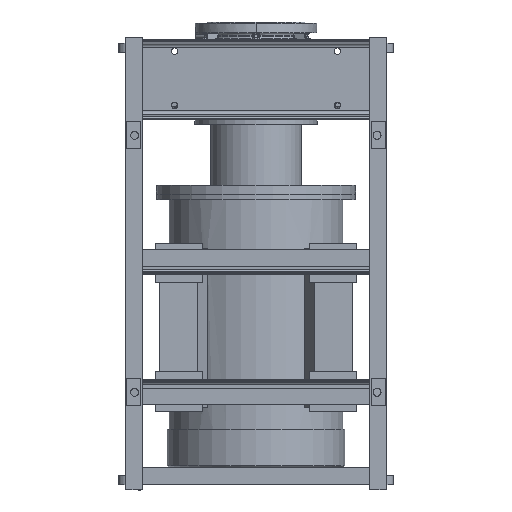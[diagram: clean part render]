
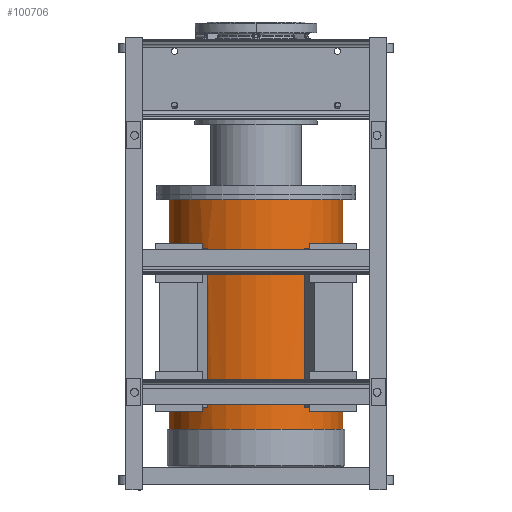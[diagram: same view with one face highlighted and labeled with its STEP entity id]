
A CAD part, front view. The second image highlights one B-rep face of the part: STEP entity #100706.
In plain terms, the highlighted cylindrical face has radius 240 mm (diameter 480 mm), a partial arc.
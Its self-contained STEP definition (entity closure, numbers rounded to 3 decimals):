
#896 = LINE ( 'NONE', #14713, #17232 ) ;
#1113 = DIRECTION ( 'NONE',  ( -1., 0., 0. ) ) ;
#3086 = AXIS2_PLACEMENT_3D ( 'NONE', #14445, #83686, #91986 ) ;
#4735 = CARTESIAN_POINT ( 'NONE',  ( -134.196, -198.976, -904.8 ) ) ;
#6490 = EDGE_CURVE ( 'NONE', #47622, #75189, #92367, .T. ) ;
#8081 = CIRCLE ( 'NONE', #53170, 240. ) ;
#9694 = ORIENTED_EDGE ( 'NONE', *, *, #82914, .T. ) ;
#10451 = VERTEX_POINT ( 'NONE', #101462 ) ;
#10553 = CIRCLE ( 'NONE', #104604, 240. ) ;
#10653 = DIRECTION ( 'NONE',  ( 0., 0., -1. ) ) ;
#14107 = CIRCLE ( 'NONE', #36005, 240. ) ;
#14445 = CARTESIAN_POINT ( 'NONE',  ( 0., 0., -464.8 ) ) ;
#14713 = CARTESIAN_POINT ( 'NONE',  ( -134.196, -198.976, -1075.8 ) ) ;
#15636 = CYLINDRICAL_SURFACE ( 'NONE', #43424, 240. ) ;
#16563 = VECTOR ( 'NONE', #92406, 1000. ) ;
#17232 = VECTOR ( 'NONE', #31044, 1000. ) ;
#18089 = CARTESIAN_POINT ( 'NONE',  ( 134.196, -198.976, -904.8 ) ) ;
#18319 = CARTESIAN_POINT ( 'NONE',  ( -240., 0., -964.8 ) ) ;
#20229 = CARTESIAN_POINT ( 'NONE',  ( -148.813, -188.294, -1075.8 ) ) ;
#21688 = DIRECTION ( 'NONE',  ( 0., 0., -1. ) ) ;
#23590 = CARTESIAN_POINT ( 'NONE',  ( 240., 0., -1075.8 ) ) ;
#25169 = AXIS2_PLACEMENT_3D ( 'NONE', #65750, #82470, #108518 ) ;
#26543 = EDGE_LOOP ( 'NONE', ( #89704, #46575, #44306, #77070 ) ) ;
#26828 = VECTOR ( 'NONE', #65052, 1000. ) ;
#28038 = CARTESIAN_POINT ( 'NONE',  ( 0., 0., -904.8 ) ) ;
#28799 = CARTESIAN_POINT ( 'NONE',  ( -148.813, -188.294, -464.8 ) ) ;
#29333 = VECTOR ( 'NONE', #48879, 1000. ) ;
#31033 = CARTESIAN_POINT ( 'NONE',  ( 134.196, -198.976, -1075.8 ) ) ;
#31044 = DIRECTION ( 'NONE',  ( 0., 0., 1. ) ) ;
#31222 = CARTESIAN_POINT ( 'NONE',  ( 0., 0., -464.8 ) ) ;
#33190 = CARTESIAN_POINT ( 'NONE',  ( -240., 0., -330.8 ) ) ;
#34701 = ORIENTED_EDGE ( 'NONE', *, *, #53910, .F. ) ;
#36005 = AXIS2_PLACEMENT_3D ( 'NONE', #28038, #80611, #88914 ) ;
#38237 = LINE ( 'NONE', #23590, #16563 ) ;
#40162 = DIRECTION ( 'NONE',  ( -1., 0., 0. ) ) ;
#41072 = ORIENTED_EDGE ( 'NONE', *, *, #58306, .F. ) ;
#43424 = AXIS2_PLACEMENT_3D ( 'NONE', #71892, #10653, #105532 ) ;
#43435 = EDGE_CURVE ( 'NONE', #69789, #67130, #10553, .T. ) ;
#43832 = ORIENTED_EDGE ( 'NONE', *, *, #60191, .T. ) ;
#44306 = ORIENTED_EDGE ( 'NONE', *, *, #45249, .T. ) ;
#45249 = EDGE_CURVE ( 'NONE', #64650, #67130, #64486, .T. ) ;
#45282 = EDGE_LOOP ( 'NONE', ( #34701, #9694, #96201, #41072 ) ) ;
#46441 = VERTEX_POINT ( 'NONE', #83223 ) ;
#46575 = ORIENTED_EDGE ( 'NONE', *, *, #52337, .T. ) ;
#47622 = VERTEX_POINT ( 'NONE', #61718 ) ;
#47751 = DIRECTION ( 'NONE',  ( 0., 0., -1. ) ) ;
#48879 = DIRECTION ( 'NONE',  ( 0., 0., -1. ) ) ;
#50819 = FACE_BOUND ( 'NONE', #104191, .T. ) ;
#52337 = EDGE_CURVE ( 'NONE', #94406, #64650, #83586, .T. ) ;
#53170 = AXIS2_PLACEMENT_3D ( 'NONE', #70625, #87657, #1113 ) ;
#53910 = EDGE_CURVE ( 'NONE', #66025, #10451, #896, .T. ) ;
#54353 = CARTESIAN_POINT ( 'NONE',  ( 148.813, -188.294, -904.8 ) ) ;
#55383 = DIRECTION ( 'NONE',  ( 0., 0., -1. ) ) ;
#56551 = DIRECTION ( 'NONE',  ( 0., 0., -1. ) ) ;
#56933 = DIRECTION ( 'NONE',  ( 1., 0., 0. ) ) ;
#57495 = ORIENTED_EDGE ( 'NONE', *, *, #108025, .T. ) ;
#58306 = EDGE_CURVE ( 'NONE', #10451, #82917, #65680, .T. ) ;
#59749 = VECTOR ( 'NONE', #55383, 1000. ) ;
#60191 = EDGE_CURVE ( 'NONE', #72988, #47622, #98029, .T. ) ;
#61622 = ORIENTED_EDGE ( 'NONE', *, *, #94303, .F. ) ;
#61718 = CARTESIAN_POINT ( 'NONE',  ( 148.813, -188.294, -464.8 ) ) ;
#64486 = LINE ( 'NONE', #100648, #29333 ) ;
#64650 = VERTEX_POINT ( 'NONE', #33190 ) ;
#65052 = DIRECTION ( 'NONE',  ( 0., 0., 1. ) ) ;
#65253 = VECTOR ( 'NONE', #21688, 1000. ) ;
#65680 = CIRCLE ( 'NONE', #103167, 240. ) ;
#65750 = CARTESIAN_POINT ( 'NONE',  ( 0., 0., -330.8 ) ) ;
#66025 = VERTEX_POINT ( 'NONE', #4735 ) ;
#67130 = VERTEX_POINT ( 'NONE', #18319 ) ;
#69775 = FACE_BOUND ( 'NONE', #45282, .T. ) ;
#69789 = VERTEX_POINT ( 'NONE', #108366 ) ;
#70625 = CARTESIAN_POINT ( 'NONE',  ( 0., 0., -904.8 ) ) ;
#71290 = EDGE_CURVE ( 'NONE', #82917, #46441, #108512, .T. ) ;
#71892 = CARTESIAN_POINT ( 'NONE',  ( 0., 0., -1075.8 ) ) ;
#72988 = VERTEX_POINT ( 'NONE', #90015 ) ;
#73872 = FACE_OUTER_BOUND ( 'NONE', #26543, .T. ) ;
#75189 = VERTEX_POINT ( 'NONE', #54353 ) ;
#77070 = ORIENTED_EDGE ( 'NONE', *, *, #43435, .F. ) ;
#80611 = DIRECTION ( 'NONE',  ( 0., 0., -1. ) ) ;
#80739 = CARTESIAN_POINT ( 'NONE',  ( 148.813, -188.294, -1075.8 ) ) ;
#82470 = DIRECTION ( 'NONE',  ( 0., 0., -1. ) ) ;
#82914 = EDGE_CURVE ( 'NONE', #66025, #46441, #14107, .T. ) ;
#82917 = VERTEX_POINT ( 'NONE', #28799 ) ;
#83223 = CARTESIAN_POINT ( 'NONE',  ( -148.813, -188.294, -904.8 ) ) ;
#83586 = CIRCLE ( 'NONE', #25169, 240. ) ;
#83686 = DIRECTION ( 'NONE',  ( 0., 0., 1. ) ) ;
#85282 = EDGE_CURVE ( 'NONE', #94406, #69789, #38237, .T. ) ;
#87657 = DIRECTION ( 'NONE',  ( 0., 0., 1. ) ) ;
#88914 = DIRECTION ( 'NONE',  ( 1., 0., 0. ) ) ;
#89704 = ORIENTED_EDGE ( 'NONE', *, *, #85282, .F. ) ;
#90015 = CARTESIAN_POINT ( 'NONE',  ( 134.196, -198.976, -464.8 ) ) ;
#91986 = DIRECTION ( 'NONE',  ( -1., 0., 0. ) ) ;
#92367 = LINE ( 'NONE', #80739, #65253 ) ;
#92406 = DIRECTION ( 'NONE',  ( 0., 0., -1. ) ) ;
#93076 = ORIENTED_EDGE ( 'NONE', *, *, #6490, .T. ) ;
#94303 = EDGE_CURVE ( 'NONE', #110662, #75189, #8081, .T. ) ;
#94406 = VERTEX_POINT ( 'NONE', #100208 ) ;
#95829 = LINE ( 'NONE', #31033, #26828 ) ;
#96201 = ORIENTED_EDGE ( 'NONE', *, *, #71290, .F. ) ;
#98029 = CIRCLE ( 'NONE', #3086, 240. ) ;
#99536 = CARTESIAN_POINT ( 'NONE',  ( 0., 0., -964.8 ) ) ;
#100208 = CARTESIAN_POINT ( 'NONE',  ( 240., 0., -330.8 ) ) ;
#100648 = CARTESIAN_POINT ( 'NONE',  ( -240., 0., -1075.8 ) ) ;
#100706 = ADVANCED_FACE ( 'NONE', ( #73872, #50819, #69775 ), #15636, .T. ) ;
#101462 = CARTESIAN_POINT ( 'NONE',  ( -134.196, -198.976, -464.8 ) ) ;
#103167 = AXIS2_PLACEMENT_3D ( 'NONE', #31222, #56551, #56933 ) ;
#104191 = EDGE_LOOP ( 'NONE', ( #61622, #57495, #43832, #93076 ) ) ;
#104604 = AXIS2_PLACEMENT_3D ( 'NONE', #99536, #47751, #40162 ) ;
#105532 = DIRECTION ( 'NONE',  ( -1., 0., 0. ) ) ;
#108025 = EDGE_CURVE ( 'NONE', #110662, #72988, #95829, .T. ) ;
#108366 = CARTESIAN_POINT ( 'NONE',  ( 240., 0., -964.8 ) ) ;
#108512 = LINE ( 'NONE', #20229, #59749 ) ;
#108518 = DIRECTION ( 'NONE',  ( -1., 0., 0. ) ) ;
#110662 = VERTEX_POINT ( 'NONE', #18089 ) ;
